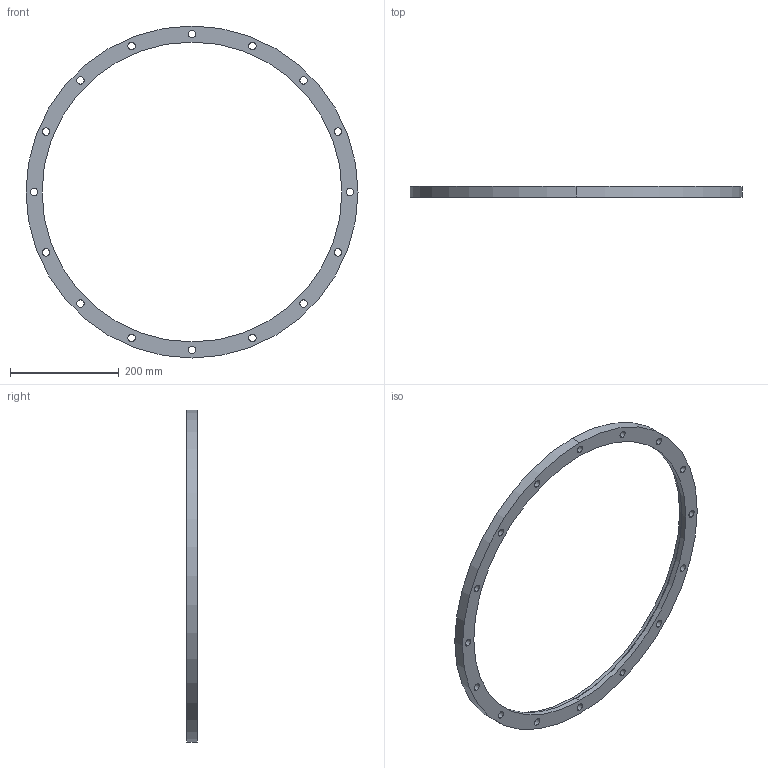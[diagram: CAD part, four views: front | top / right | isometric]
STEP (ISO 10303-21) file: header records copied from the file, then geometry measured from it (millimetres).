
FILE_DESCRIPTION (( 'STEP AP214' ), '1' );
FILE_NAME ('W5UEF500.STEP', '2021-02-02T12:10:34', ( '' ), ( '' ), 'SwSTEP 2.0', 'SolidWorks 2020', '' );
FILE_SCHEMA (( 'AUTOMOTIVE_DESIGN' ));
Length unit declared in the file: millimetre
Products named in the file (1): W5UEF500
Bounding box: 610 x 20 x 610 mm (x, y, z)
Volume: 966442.7 mm3; surface area: 186766.2 mm2
Topology: 1 solids, 1 shells, 42 faces, 116 edges, 76 vertices
Faces by surface type: cylinder 38, torus 2, plane 2
Entity records: 1488 total; most frequent: DIRECTION 280, CARTESIAN_POINT 235, ORIENTED_EDGE 232, AXIS2_PLACEMENT_3D 121, EDGE_CURVE 116, CIRCLE 78, VERTEX_POINT 76, EDGE_LOOP 76
